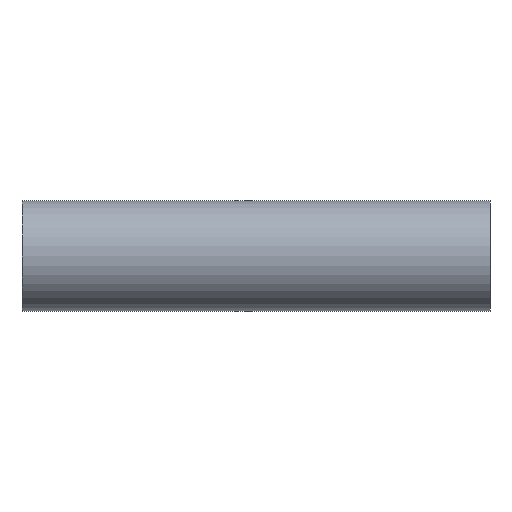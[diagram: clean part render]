
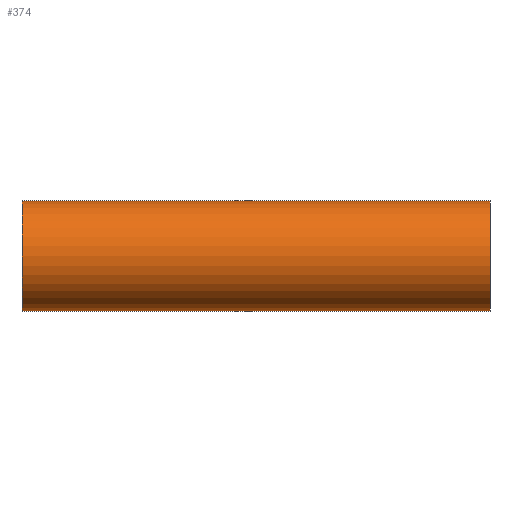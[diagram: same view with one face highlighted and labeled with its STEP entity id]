
A CAD part, front view. The second image highlights one B-rep face of the part: STEP entity #374.
In plain terms, the highlighted cylindrical face has radius 12.7 mm (diameter 25.4 mm), a partial arc.
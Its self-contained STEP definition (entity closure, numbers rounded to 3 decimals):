
#2 = DIRECTION ( 'NONE',  ( 0., 0., -1. ) ) ;
#3 = CARTESIAN_POINT ( 'NONE',  ( 54., 0., -12.7 ) ) ;
#6 = CARTESIAN_POINT ( 'NONE',  ( -54., 0., 0. ) ) ;
#8 = DIRECTION ( 'NONE',  ( 1., 0., 0. ) ) ;
#64 = DIRECTION ( 'NONE',  ( 0., 0., -1. ) ) ;
#77 = CIRCLE ( 'NONE', #334, 12.7 ) ;
#129 = CYLINDRICAL_SURFACE ( 'NONE', #289, 12.7 ) ;
#136 = ORIENTED_EDGE ( 'NONE', *, *, #462, .T. ) ;
#175 = VERTEX_POINT ( 'NONE', #3 ) ;
#181 = CIRCLE ( 'NONE', #434, 12.7 ) ;
#199 = LINE ( 'NONE', #395, #483 ) ;
#216 = EDGE_CURVE ( 'NONE', #372, #390, #199, .T. ) ;
#220 = VERTEX_POINT ( 'NONE', #383 ) ;
#233 = DIRECTION ( 'NONE',  ( 0., 0., -1. ) ) ;
#241 = CARTESIAN_POINT ( 'NONE',  ( -54., 0., 0. ) ) ;
#243 = DIRECTION ( 'NONE',  ( 1., 0., 0. ) ) ;
#261 = ORIENTED_EDGE ( 'NONE', *, *, #444, .T. ) ;
#289 = AXIS2_PLACEMENT_3D ( 'NONE', #6, #8, #2 ) ;
#309 = DIRECTION ( 'NONE',  ( 1., 0., 0. ) ) ;
#330 = EDGE_LOOP ( 'NONE', ( #420, #261, #136, #445 ) ) ;
#331 = DIRECTION ( 'NONE',  ( -1., 0., 0. ) ) ;
#334 = AXIS2_PLACEMENT_3D ( 'NONE', #241, #243, #233 ) ;
#342 = FACE_OUTER_BOUND ( 'NONE', #330, .T. ) ;
#343 = CARTESIAN_POINT ( 'NONE',  ( 54., 0., 0. ) ) ;
#356 = CARTESIAN_POINT ( 'NONE',  ( -54., 0., -12.7 ) ) ;
#361 = CARTESIAN_POINT ( 'NONE',  ( 54., 0., 12.7 ) ) ;
#362 = VECTOR ( 'NONE', #309, 1000. ) ;
#372 = VERTEX_POINT ( 'NONE', #416 ) ;
#373 = DIRECTION ( 'NONE',  ( 1., 0., 0. ) ) ;
#374 = ADVANCED_FACE ( 'NONE', ( #342 ), #129, .T. ) ;
#383 = CARTESIAN_POINT ( 'NONE',  ( -54., 0., -12.7 ) ) ;
#390 = VERTEX_POINT ( 'NONE', #361 ) ;
#395 = CARTESIAN_POINT ( 'NONE',  ( -54., 0., 12.7 ) ) ;
#416 = CARTESIAN_POINT ( 'NONE',  ( -54., 0., 12.7 ) ) ;
#420 = ORIENTED_EDGE ( 'NONE', *, *, #216, .F. ) ;
#434 = AXIS2_PLACEMENT_3D ( 'NONE', #343, #331, #64 ) ;
#444 = EDGE_CURVE ( 'NONE', #372, #220, #77, .T. ) ;
#445 = ORIENTED_EDGE ( 'NONE', *, *, #478, .T. ) ;
#455 = LINE ( 'NONE', #356, #362 ) ;
#462 = EDGE_CURVE ( 'NONE', #220, #175, #455, .T. ) ;
#478 = EDGE_CURVE ( 'NONE', #175, #390, #181, .T. ) ;
#483 = VECTOR ( 'NONE', #373, 1000. ) ;
